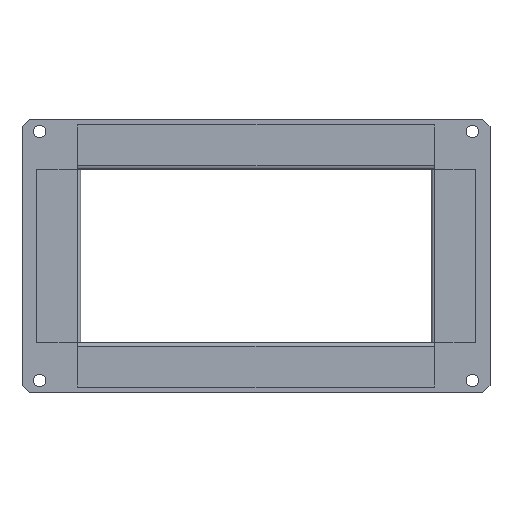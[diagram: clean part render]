
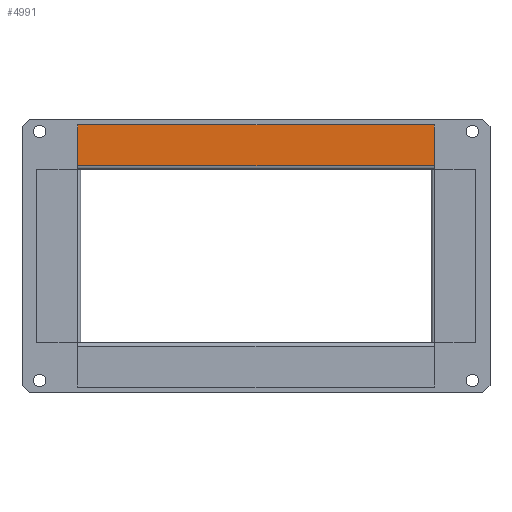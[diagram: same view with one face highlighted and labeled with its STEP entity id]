
A CAD part, top view. The second image highlights one B-rep face of the part: STEP entity #4991.
In plain terms, the highlighted planar face has unit normal (0, 0, 1) as drawn and (0, 0, -1) by its records, which use the part's own axes.
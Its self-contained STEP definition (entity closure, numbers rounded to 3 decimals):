
#49 = FACE_OUTER_BOUND ( 'NONE', #3410, .T. ) ;
#309 = CARTESIAN_POINT ( 'NONE',  ( 100.8, 0., 0. ) ) ;
#384 = CARTESIAN_POINT ( 'NONE',  ( 100.8, 1.8, 0. ) ) ;
#419 = EDGE_CURVE ( 'NONE', #3662, #5032, #3807, .T. ) ;
#502 = VECTOR ( 'NONE', #2647, 1000. ) ;
#592 = ORIENTED_EDGE ( 'NONE', *, *, #2694, .T. ) ;
#816 = DIRECTION ( 'NONE',  ( -1., 0., 0. ) ) ;
#1096 = VECTOR ( 'NONE', #1267, 1000. ) ;
#1267 = DIRECTION ( 'NONE',  ( -1., 0., 0. ) ) ;
#1510 = EDGE_CURVE ( 'NONE', #5032, #6001, #3203, .T. ) ;
#1608 = CARTESIAN_POINT ( 'NONE',  ( 100.8, 25., 0. ) ) ;
#2334 = PLANE ( 'NONE',  #4750 ) ;
#2647 = DIRECTION ( 'NONE',  ( 0., -1., 0. ) ) ;
#2694 = EDGE_CURVE ( 'NONE', #3662, #3481, #6439, .T. ) ;
#2739 = CARTESIAN_POINT ( 'NONE',  ( 100.8, 0., 0. ) ) ;
#3203 = LINE ( 'NONE', #3594, #502 ) ;
#3237 = CARTESIAN_POINT ( 'NONE',  ( 100.8, 25., 0. ) ) ;
#3292 = VECTOR ( 'NONE', #6540, 1000. ) ;
#3410 = EDGE_LOOP ( 'NONE', ( #4528, #6447, #592, #5435 ) ) ;
#3481 = VERTEX_POINT ( 'NONE', #6218 ) ;
#3594 = CARTESIAN_POINT ( 'NONE',  ( -100.8, 0., 0. ) ) ;
#3662 = VERTEX_POINT ( 'NONE', #3237 ) ;
#3807 = LINE ( 'NONE', #1608, #1096 ) ;
#3861 = DIRECTION ( 'NONE',  ( 0., 0., -1. ) ) ;
#4426 = CARTESIAN_POINT ( 'NONE',  ( -100.8, 1.8, 0. ) ) ;
#4528 = ORIENTED_EDGE ( 'NONE', *, *, #1510, .F. ) ;
#4750 = AXIS2_PLACEMENT_3D ( 'NONE', #309, #3861, #816 ) ;
#4991 = ADVANCED_FACE ( 'NONE', ( #49 ), #2334, .T. ) ;
#5032 = VERTEX_POINT ( 'NONE', #5460 ) ;
#5087 = VECTOR ( 'NONE', #5822, 1000. ) ;
#5141 = EDGE_CURVE ( 'NONE', #3481, #6001, #6052, .T. ) ;
#5435 = ORIENTED_EDGE ( 'NONE', *, *, #5141, .T. ) ;
#5460 = CARTESIAN_POINT ( 'NONE',  ( -100.8, 25., 0. ) ) ;
#5822 = DIRECTION ( 'NONE',  ( 0., -1., 0. ) ) ;
#6001 = VERTEX_POINT ( 'NONE', #4426 ) ;
#6052 = LINE ( 'NONE', #384, #3292 ) ;
#6218 = CARTESIAN_POINT ( 'NONE',  ( 100.8, 1.8, 0. ) ) ;
#6439 = LINE ( 'NONE', #2739, #5087 ) ;
#6447 = ORIENTED_EDGE ( 'NONE', *, *, #419, .F. ) ;
#6540 = DIRECTION ( 'NONE',  ( -1., 0., 0. ) ) ;
